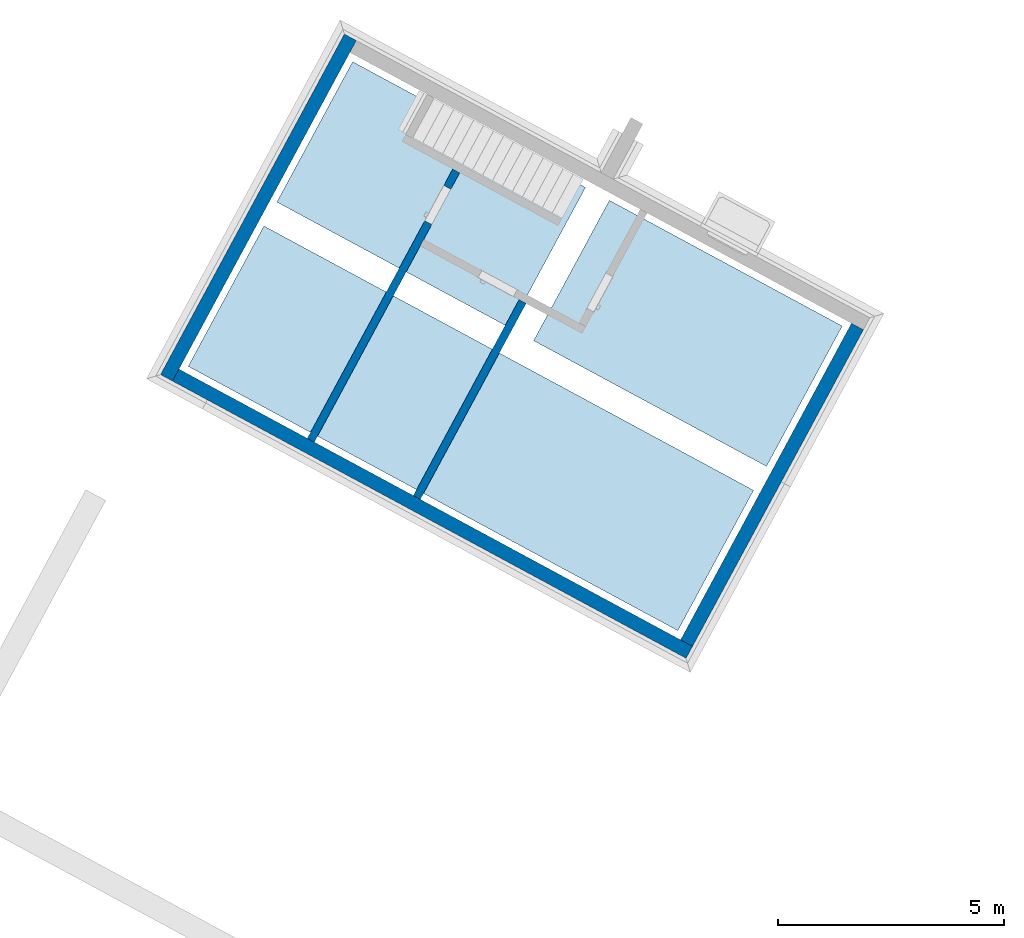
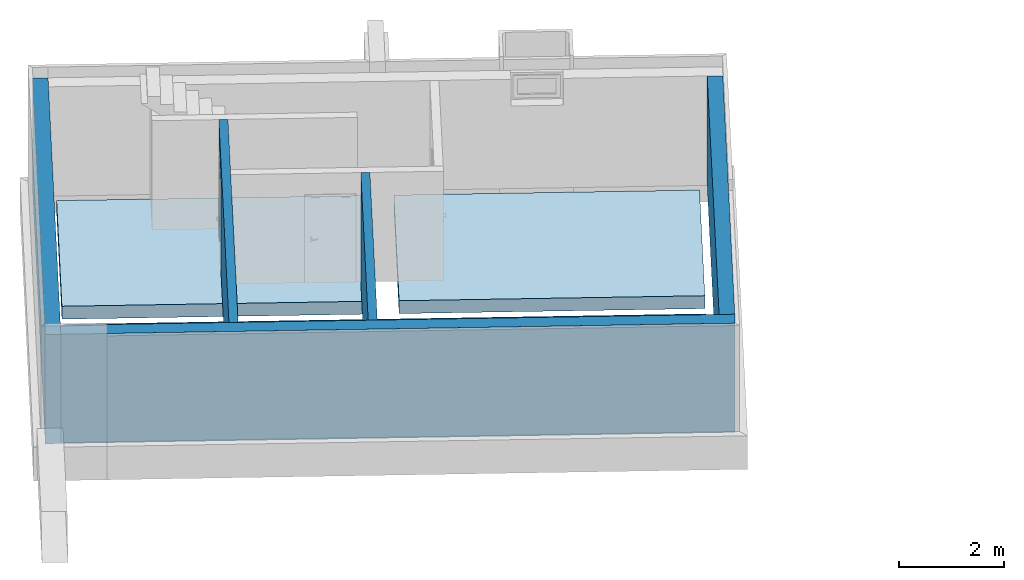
# One storey, part 3 of 7: 5 walls, 1 slab, 1 opening.
"""IFC2X3 building model written with IfcOpenShell, lengths in metres."""

import ifcopenshell
import ifcopenshell.guid

model = None  # the IFC model being written
_history = None  # IfcOwnerHistory: only IFC2X3 demands one
_inside = {}  # id of a spatial element -> (the spatial element, [elements in it])
_under = {}  # id of a project, library or spatial element -> (it, [spatial elements below it])
_declared = {}  # id of a project -> (the project, [libraries it declares])
_typed = {}  # id of a type object -> (the type object, [elements of that type])
_made_of = {}  # id of a material, layer set ... -> (it, [elements and type objects made of it])


def new_model(schema):
    """Start an empty IFC model of exactly this schema.

    Asked for "IFC4X3", IfcOpenShell would pick the latest addendum, in which some entities
    have other attributes; the version numbers below select the first issue.
    IFC2X3 requires an IfcOwnerHistory on every rooted entity: one is made here for all.
    """
    global model, _history
    if schema == "IFC4X3":
        model = ifcopenshell.file(schema_version=(4, 3, 0, 0))
    else:
        model = ifcopenshell.file(schema=schema)
    _inside.clear()
    _under.clear()
    _declared.clear()
    _typed.clear()
    _made_of.clear()
    _history = None
    if model.schema == "IFC2X3":
        org = make("IfcOrganization", Name="unknown")
        user = make(
            "IfcPersonAndOrganization",
            ThePerson=make("IfcPerson", FamilyName="unknown"),
            TheOrganization=org,
        )
        app = make(
            "IfcApplication",
            ApplicationDeveloper=org,
            Version="unknown",
            ApplicationFullName="unknown",
            ApplicationIdentifier="unknown",
        )
        _history = make(
            "IfcOwnerHistory",
            OwningUser=user,
            OwningApplication=app,
            ChangeAction="ADDED",
            CreationDate=0,
        )
    return model


def make(cls, **values):
    """One entity of the class cls with the attributes given. An attribute that is None is left unset."""
    return model.create_entity(
        cls, **{name: value for name, value in values.items() if value is not None}
    )


def entity(cls, *values):
    """Any entity or typed value of the class cls, its attributes in the order of the schema. None: left unset."""
    e = model.create_entity(cls)
    for i, value in enumerate(values):
        if value is not None:
            e[i] = value
    return e


def rooted(cls, **values):
    """An entity with a GlobalId (a new one), such as an element, a storey or a relation."""
    return make(cls, GlobalId=ifcopenshell.guid.new(), OwnerHistory=_history, **values)


def si_unit(unit_type, name, prefix=None):
    """IfcSIUnit, for example si_unit("LENGTHUNIT", "METRE", prefix="MILLI")."""
    return make("IfcSIUnit", UnitType=unit_type, Prefix=prefix, Name=name)


def converted_unit(unit_type, name, factor, base, dimensions=None, offset=None):
    """IfcConversionBasedUnit, such as the inch: factor (a typed value) times the base unit."""
    return make(
        "IfcConversionBasedUnit"
        if offset is None
        else "IfcConversionBasedUnitWithOffset",
        ConversionOffset=offset,
        Dimensions=None
        if dimensions is None
        else entity("IfcDimensionalExponents", *dimensions),
        UnitType=unit_type,
        Name=name,
        ConversionFactor=make(
            "IfcMeasureWithUnit", ValueComponent=factor, UnitComponent=base
        ),
    )


def derived_unit(unit_type, elements):
    """IfcDerivedUnit: a product of units, each with its exponent."""
    return make(
        "IfcDerivedUnit",
        Elements=[
            make("IfcDerivedUnitElement", Unit=unit, Exponent=power)
            for unit, power in elements
        ],
        UnitType=unit_type,
    )


def money_unit(currency):
    """IfcMonetaryUnit."""
    return make("IfcMonetaryUnit", Currency=currency)


def assignment(units):
    """IfcUnitAssignment: the units of a project."""
    return None if units is None else make("IfcUnitAssignment", Units=units)


def point(xyz):
    """IfcCartesianPoint."""
    return None if xyz is None else make("IfcCartesianPoint", Coordinates=xyz)


def direction(xyz):
    """IfcDirection."""
    return None if xyz is None else make("IfcDirection", DirectionRatios=xyz)


def frame(location, z_axis=None, x_axis=None):
    """IfcAxis2Placement3D, a coordinate frame: its origin and axes. An axis left out is left unset."""
    return make(
        "IfcAxis2Placement3D",
        Location=point(location),
        Axis=direction(z_axis),
        RefDirection=direction(x_axis),
    )


def frame_2d(location, x_axis=None):
    """IfcAxis2Placement2D, a coordinate frame in the plane: its origin and x axis."""
    return make(
        "IfcAxis2Placement2D", Location=point(location), RefDirection=direction(x_axis)
    )


def origin_with_axes():
    """The frame at (0, 0, 0) with the z axis (0, 0, 1) and the x axis (1, 0, 0) written out."""
    return frame((0.0, 0.0, 0.0), z_axis=(0.0, 0.0, 1.0), x_axis=(1.0, 0.0, 0.0))


def origin_2d_with_axis():
    """The frame at (0, 0) in the plane with the x axis (1, 0) written out."""
    return frame_2d((0.0, 0.0), x_axis=(1.0, 0.0))


def place(relative_to, where):
    """IfcLocalPlacement: puts the frame where relative to a parent placement (None: the world)."""
    return make(
        "IfcLocalPlacement", PlacementRelTo=relative_to, RelativePlacement=where
    )


def context(
    kind, dimensions, precision=None, world=None, true_north=None, identifier=None
):
    """IfcGeometricRepresentationContext, for example the 3D "Model" context."""
    return make(
        "IfcGeometricRepresentationContext",
        ContextIdentifier=identifier,
        ContextType=kind,
        CoordinateSpaceDimension=dimensions,
        Precision=precision,
        WorldCoordinateSystem=world,
        TrueNorth=true_north,
    )


def subcontext(parent, identifier, kind, view, scale=None):
    """IfcGeometricRepresentationSubContext, for example "Body" below "Model"."""
    return make(
        "IfcGeometricRepresentationSubContext",
        ContextIdentifier=identifier,
        ContextType=kind,
        ParentContext=parent,
        TargetScale=scale,
        TargetView=view,
    )


def project(units=None, contexts=None):
    """IfcProject with its units and contexts."""
    return rooted(
        "IfcProject",
        Name="project",
        RepresentationContexts=contexts,
        UnitsInContext=assignment(units),
    )


def spatial(cls, under=None, at=None, **own):
    """A site, building, storey or space (cls), placed at a placement, below another one or the project."""
    s = rooted(cls, ObjectPlacement=at, **own)
    if under is not None:
        _under.setdefault(under.id(), (under, []))[1].append(s)
    return s


def profile(cls, at=None, kind="AREA", **sizes):
    """A parametric profile (cls). Its sizes go by their IFC names, for example OverallWidth=200.0."""
    return make(cls, ProfileType=kind, Position=at, **sizes)


def rectangle(**sizes):
    """IfcRectangleProfileDef."""
    return profile("IfcRectangleProfileDef", **sizes)


def extrude(swept, where, along, depth):
    """IfcExtrudedAreaSolid: the profile swept, set in the frame where, extruded along a direction by depth."""
    return make(
        "IfcExtrudedAreaSolid",
        SweptArea=swept,
        Position=where,
        ExtrudedDirection=direction(along),
        Depth=depth,
    )


def faces_of(points, faces, orient=None, outer=None):
    """IfcFace entities. A face is a list of loops; a loop is a list of indices into points, from 0.

    orient and outer hold one flag for each loop. By default every Orientation is true, the
    first loop of a face is its IfcFaceOuterBound and the others are IfcFaceBound.
    """
    made = []
    for i, loops in enumerate(faces):
        bounds = []
        for j, loop in enumerate(loops):
            is_outer = j == 0 if outer is None else outer[i][j]
            bounds.append(
                make(
                    "IfcFaceOuterBound" if is_outer else "IfcFaceBound",
                    Bound=make("IfcPolyLoop", Polygon=[points[k] for k in loop]),
                    Orientation=True if orient is None else orient[i][j],
                )
            )
        made.append(make("IfcFace", Bounds=bounds))
    return made


def faceted_brep(points, faces, orient=None, outer=None, voids=None):
    """IfcFacetedBrep: a solid bounded by flat faces; with voids (closed shells), ...WithVoids."""
    shared = [point(p) for p in points]
    hull = make("IfcClosedShell", CfsFaces=faces_of(shared, faces, orient, outer))
    if voids is None:
        return make("IfcFacetedBrep", Outer=hull)
    return make(
        "IfcFacetedBrepWithVoids",
        Outer=hull,
        Voids=[
            make(cls, CfsFaces=faces_of(shared, fs, o, b)) for cls, fs, o, b in voids
        ],
    )


def shape(context_of_items, identifier, shape_type, items):
    """IfcShapeRepresentation: the items that make up one representation, for example the "Body"."""
    return make(
        "IfcShapeRepresentation",
        ContextOfItems=context_of_items,
        RepresentationIdentifier=identifier,
        RepresentationType=shape_type,
        Items=items,
    )


def material(Name=None, Category=None):
    """IfcMaterial."""
    return make("IfcMaterial", Name=Name, Category=Category)


def made_of(thing, what):
    """Note that an element or type object is made of a material, layer set ...; save() writes the relation."""
    if what is not None:
        _made_of.setdefault(what.id(), (what, []))[1].append(thing)
    return thing


def type_object(cls, material=None, **own):
    """A type object (cls), such as IfcWallType, which elements share."""
    return made_of(rooted(cls, **own), material)


def element(
    cls,
    number,
    at=None,
    inside=None,
    cuts=None,
    type_object=None,
    material=None,
    context=None,
    identifier="Body",
    shape_type=None,
    held_by="IfcProductDefinitionShape",
    body=None,
    shapes=None,
    **own,
):
    """One element of the class cls, such as IfcWall. Its Tag is "e" and its number.

    at: its placement. inside: the storey or other place that contains it. cuts: it is an
    opening in that element (IfcRelVoidsElement). A single representation is given by context,
    identifier, shape_type and body (its items); several are given by shapes. held_by: the class
    of the entity that holds the representations. save() writes the other relations.
    """
    e = rooted(cls, Tag="e%d" % number, ObjectPlacement=at, **own)
    if body is not None:
        shapes = [shape(context, identifier, shape_type, body)]
    if shapes is not None:
        e.Representation = make(held_by, Representations=shapes)
    if inside is not None:
        _inside.setdefault(inside.id(), (inside, []))[1].append(e)
    if cuts is not None:
        rooted(
            "IfcRelVoidsElement", RelatingBuildingElement=cuts, RelatedOpeningElement=e
        )
    if type_object is not None:
        _typed.setdefault(type_object.id(), (type_object, []))[1].append(e)
    return made_of(e, material)


def aggregate(whole, parts):
    """IfcRelAggregates: a whole, such as a stair, and the parts it consists of."""
    return rooted("IfcRelAggregates", RelatingObject=whole, RelatedObjects=parts)


def save(model, path):
    """Write the relations noted so far, then the file.

    IfcRelAggregates (storeys below a building ...), IfcRelContainedInSpatialStructure (elements
    in a storey), IfcRelDefinesByType, IfcRelAssociatesMaterial and IfcRelDeclares: one each for
    every whole, place, type object, material and project.
    """
    for whole, parts in _under.values():
        aggregate(whole, parts)
    for where, things in _inside.values():
        rooted(
            "IfcRelContainedInSpatialStructure",
            RelatedElements=things,
            RelatingStructure=where,
        )
    for kind, things in _typed.values():
        rooted("IfcRelDefinesByType", RelatedObjects=things, RelatingType=kind)
    for what, things in _made_of.values():
        rooted("IfcRelAssociatesMaterial", RelatedObjects=things, RelatingMaterial=what)
    for by, libraries in _declared.values():
        rooted("IfcRelDeclares", RelatingContext=by, RelatedDefinitions=libraries)
    model.write(path)


model = new_model("IFC2X3")

# Units and contexts
model_context = context("Model", 3, precision=1e-05, world=origin_with_axes(), true_north=direction((0.0, 1.0)))
body_context = subcontext(model_context, "Body", "Model", "MODEL_VIEW")
ifc_project = project(units=[si_unit("LENGTHUNIT", "METRE"), si_unit("AREAUNIT", "SQUARE_METRE"), si_unit("VOLUMEUNIT", "CUBIC_METRE"), converted_unit("PLANEANGLEUNIT", "DEGREE", entity("IfcPlaneAngleMeasure", 0.0174532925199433), si_unit("PLANEANGLEUNIT", "RADIAN"), dimensions=[0, 0, 0, 0, 0, 0, 0]), money_unit("EUR"), converted_unit("TIMEUNIT", "Year", entity("IfcTimeMeasure", 31556926.0), si_unit("TIMEUNIT", "SECOND"), dimensions=[0, 0, 1, 0, 0, 0, 0]), si_unit("MASSUNIT", "GRAM", prefix="KILO"), si_unit("THERMODYNAMICTEMPERATUREUNIT", "DEGREE_CELSIUS"), si_unit("LUMINOUSINTENSITYUNIT", "LUMEN"), si_unit("ENERGYUNIT", "JOULE", prefix="MEGA"), derived_unit("THERMALCONDUCTANCEUNIT", [(si_unit("POWERUNIT", "WATT"), 1), (si_unit("LENGTHUNIT", "METRE"), -1), (si_unit("THERMODYNAMICTEMPERATUREUNIT", "KELVIN"), -1)]), derived_unit("SPECIFICHEATCAPACITYUNIT", [(si_unit("ENERGYUNIT", "JOULE"), 1), (si_unit("MASSUNIT", "GRAM", prefix="KILO"), -1), (si_unit("THERMODYNAMICTEMPERATUREUNIT", "KELVIN"), -1)]), derived_unit("MASSDENSITYUNIT", [(si_unit("MASSUNIT", "GRAM", prefix="KILO"), 1), (si_unit("VOLUMEUNIT", "CUBIC_METRE"), -1)])], contexts=[model_context])

# Site, building, storey
site_placement = place(None, frame((-3.949935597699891, 1.740105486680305, 0.0), z_axis=(0.0, 0.0, 1.0), x_axis=(0.8799804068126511, -0.475009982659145, 0.0)))
site = spatial("IfcSite", under=ifc_project, at=site_placement, Name="Gelände", CompositionType="ELEMENT")
building_placement = place(site_placement, origin_with_axes())
building = spatial("IfcBuilding", under=site, at=building_placement, Name="Gebäude", CompositionType="ELEMENT")
storey_placement = place(building_placement, frame((0.0, 0.0, -2.98), z_axis=(0.0, 0.0, 1.0), x_axis=(1.0, 0.0, 0.0)))
storey = spatial("IfcBuildingStorey", under=building, at=storey_placement, Name="Kellergeschoss", CompositionType="ELEMENT", Elevation=-2.98)

# Slab
ifc_material_1 = material(Name="_SIWH - Beton, Stahlbeton")
slab_type = type_object("IfcSlabType", Name="_SIWH - Beton, Stahlbeton 300", PredefinedType="NOTDEFINED")
slab_placement = place(storey_placement, frame((17.36747590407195, 19.20027477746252, 0.0), z_axis=(0.0, 0.0, 1.0), x_axis=(1.0, 0.0, 0.0)))
element("IfcSlab", 1, at=slab_placement, inside=storey, type_object=slab_type, material=ifc_material_1, Name="Decke027", PredefinedType="NOTDEFINED", context=body_context, shape_type="Brep", body=[
    faceted_brep([(-0.4499926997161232, -3.971214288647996, -0.2999999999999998), (-0.4499926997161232, -0.4499544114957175, -0.2999999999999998), (-0.4499926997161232, -0.4499544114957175, 0.0), (-0.4499926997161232, -3.971214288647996, 0.0), (-6.292469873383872, -3.971214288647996, -0.2999999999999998), (-6.292469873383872, -0.4499544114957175, -0.2999999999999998), (-6.292469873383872, -0.4499544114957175, 0.0), (-6.292469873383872, -3.971214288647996, 0.0)], [[[0, 1, 2, 3]], [[4, 5, 1, 0]], [[5, 6, 2, 1]], [[3, 2, 6, 7]], [[4, 0, 3, 7]], [[7, 6, 5, 4]]]),
    faceted_brep([(-0.4499926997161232, -4.571214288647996, -0.2999999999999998), (-12.73494704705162, -4.571214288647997, -0.2999999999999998), (-12.73494704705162, -4.571214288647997, 0.0), (-0.4499926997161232, -4.571214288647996, 0.0), (-0.4499926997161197, -8.09247416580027, -0.2999999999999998), (-12.73494704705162, -8.092474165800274, -0.2999999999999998), (-12.73494704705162, -8.092474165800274, 0.0), (-0.4499926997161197, -8.09247416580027, 0.0)], [[[0, 1, 2, 3]], [[4, 5, 1, 0]], [[5, 6, 2, 1]], [[3, 2, 6, 7]], [[3, 7, 4, 0]], [[7, 6, 5, 4]]]),
    faceted_brep([(-6.892469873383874, -3.971214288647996, -0.2999999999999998), (-6.892469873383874, -0.4499544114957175, -0.2999999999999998), (-6.892469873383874, -0.4499544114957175, 0.0), (-6.892469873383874, -3.971214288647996, 0.0), (-12.73494704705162, -3.971214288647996, -0.2999999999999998), (-12.73494704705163, -0.4499544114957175, -0.2999999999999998), (-12.73494704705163, -0.4499544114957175, 0.0), (-12.73494704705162, -3.971214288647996, 0.0)], [[[0, 1, 2, 3]], [[4, 5, 1, 0]], [[5, 6, 2, 1]], [[3, 2, 6, 7]], [[3, 7, 4, 0]], [[7, 6, 5, 4]]]),
])

# Wall, opening
ifc_material_2 = material(Name="_SIWH - MW Kalksandstein")
wall_type_1 = type_object("IfcWallType", Name="_SIWH - WI | KS 17,5 | 17,5cm 175", PredefinedType="NOTDEFINED")
wall_1_placement = place(storey_placement, frame((7.70248103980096, 10.65780061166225, 0.0), z_axis=(0.0, 0.0, 1.0), x_axis=(-4.65564048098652e-06, 0.9999999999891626, 0.0)))
wall_1 = element("IfcWall", 2, at=wall_1_placement, inside=storey, type_object=wall_type_1, material=ifc_material_2, Name="I-Wand023", context=body_context, shape_type="Brep", body=[
    faceted_brep([(5.760378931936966, -0.1749999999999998, 0.0), (5.760378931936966, -0.1749999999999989, 2.01), (6.64537893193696, -0.174999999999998, 2.01), (6.64537893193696, -0.1749999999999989, 0.0), (7.057487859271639, -0.1749999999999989, 0.0), (7.057487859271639, -0.1749999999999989, 2.55), (0.2999991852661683, -0.1750000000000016, 2.55), (0.2999991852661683, -0.1750000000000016, 0.0), (5.760378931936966, 0.0, 0.0), (5.760378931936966, 0.0, 2.01), (6.64537893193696, 0.0, 2.01), (6.64537893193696, 0.0, 0.0), (7.057487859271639, 0.0, 0.0), (7.057487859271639, 0.0, 2.55), (0.3000000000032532, 0.0, 2.55), (0.3000000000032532, 0.0, 0.0)], [[[0, 1, 2, 3, 4, 5, 6, 7]], [[1, 0, 8, 9]], [[2, 1, 9, 10]], [[3, 2, 10, 11]], [[3, 11, 12, 4]], [[13, 5, 4, 12]], [[14, 6, 5, 13]], [[6, 14, 15, 7]], [[8, 0, 7, 15]], [[9, 8, 15, 14, 13, 12, 11, 10]]]),
])
opening_placement = place(wall_1_placement, frame((6.202878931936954, 0.0, 0.0), z_axis=(0.0, 0.0, 1.0), x_axis=(1.0, 0.0, 0.0)))
element("IfcOpeningElement", 3, at=opening_placement, cuts=wall_1, Name="Tür-017", context=body_context, shape_type="SweptSolid", body=[
    extrude(rectangle(XDim=0.884999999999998, YDim=2.01, at=origin_2d_with_axis()), frame((0.0, -0.1749999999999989, 1.005), z_axis=(0.0, 1.0, 0.0), x_axis=(1.0, 0.0, 0.0)), (0.0, 0.0, 1.0), 0.5249999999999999),
])

# Walls
wall_2_placement = place(storey_placement, frame((10.53740846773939, 16.04969649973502, 0.0), z_axis=(0.0, 0.0, 1.0), x_axis=(4.722513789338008e-06, -0.9999999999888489, 0.0)))
element("IfcWall", 4, at=wall_2_placement, inside=storey, type_object=wall_type_1, material=ifc_material_2, Name="I-Wand026", context=body_context, shape_type="Brep", body=[
    faceted_brep([(5.091895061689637, -0.1749999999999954, 2.55), (5.09189588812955, 0.0, 2.55), (0.1750000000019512, 0.0, 2.55), (0.1749991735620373, -0.1749999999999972, 2.55), (5.091895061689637, -0.1749999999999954, 0.0), (5.09189588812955, 0.0, 0.0), (0.1750000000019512, 0.0, 0.0), (0.1749991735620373, -0.1749999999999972, 0.0)], [[[0, 1, 2, 3]], [[1, 0, 4, 5]], [[1, 5, 6, 2]], [[7, 3, 2, 6]], [[4, 0, 3, 7]], [[5, 4, 7, 6]]]),
])
wall_type_2 = type_object("IfcWallType", Name="_SIWH - WA | Stb. 30 | 30cm 300", PredefinedType="NOTDEFINED")
wall_3_placement = place(storey_placement, frame((4.182535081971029, 10.65780061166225, 0.0), z_axis=(0.0, 0.0, 1.0), x_axis=(1.0, 0.0, 0.0)))
element("IfcWall", 5, at=wall_3_placement, inside=storey, type_object=wall_type_2, material=ifc_material_1, Name="A-Wand000", context=body_context, shape_type="Brep", body=[
    faceted_brep([(0.299998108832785, 0.3000000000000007, 0.0), (0.299998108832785, 0.3000000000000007, 2.55), (13.18494870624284, 0.3000000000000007, 2.55), (13.18494870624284, 0.3000000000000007, 0.0), (0.3000000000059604, 0.0, 0.0), (0.3000000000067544, -2.405255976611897e-07, 2.55), (1.174946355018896, 2.646668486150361e-06, 2.55), (13.18494890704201, 0.0, 2.55), (13.18494890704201, 0.0, 0.0)], [[[0, 1, 2, 3]], [[4, 5, 1, 0]], [[6, 7, 2, 1, 5]], [[3, 2, 7, 8]], [[0, 3, 8, 4]], [[7, 6, 5, 4, 8]]]),
])
wall_4_placement = place(storey_placement, frame((17.36748398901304, 10.65780061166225, 0.0), z_axis=(0.0, 0.0, 1.0), x_axis=(-6.693305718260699e-07, 0.9999999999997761, 0.0)))
element("IfcWall", 6, at=wall_4_placement, inside=storey, type_object=wall_type_2, material=ifc_material_1, Name="A-Wand002", context=body_context, shape_type="Brep", body=[
    faceted_brep([(8.242519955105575, 0.3000000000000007, 0.0), (8.242519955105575, 0.3000000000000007, 2.55), (8.242519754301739, 1.222206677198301e-06, 2.55), (8.242519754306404, 0.0, 0.0), (0.3000002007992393, 0.3000000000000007, 0.0), (0.3000002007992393, 0.3000000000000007, 2.55), (0.3000000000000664, 0.0, 2.55), (0.3000000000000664, 0.0, 0.0)], [[[0, 1, 2, 3]], [[4, 5, 1, 0]], [[5, 6, 2, 1]], [[3, 2, 6, 7]], [[4, 0, 3, 7]], [[7, 6, 5, 4]]]),
])
wall_5_placement = place(storey_placement, frame((4.182481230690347, 19.2003203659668, 0.0), z_axis=(0.0, 0.0, 1.0), x_axis=(6.303910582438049e-06, -0.9999999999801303, 0.0)))
element("IfcWall", 7, at=wall_5_placement, inside=storey, type_object=wall_type_2, material=ifc_material_1, Name="A-Wand025", context=body_context, shape_type="Brep", body=[
    faceted_brep([(0.0, 0.0, 0.0), (4.294788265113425e-05, 5.061439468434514e-05, 2.55), (4.489881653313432e-05, 0.2999999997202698, 2.55), (1.891173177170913e-06, 0.2999999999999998, 0.0), (8.542519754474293, 0.0, 0.0), (8.542520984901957, -1.788979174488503e-05, 2.55), (8.542521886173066, 0.2999999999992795, 2.55), (8.542521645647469, 0.3000000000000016, 0.0)], [[[0, 1, 2, 3]], [[4, 5, 1, 0]], [[5, 6, 2, 1]], [[3, 2, 6, 7]], [[4, 0, 3, 7]], [[7, 6, 5, 4]]]),
])

save(model, "model.ifc")
